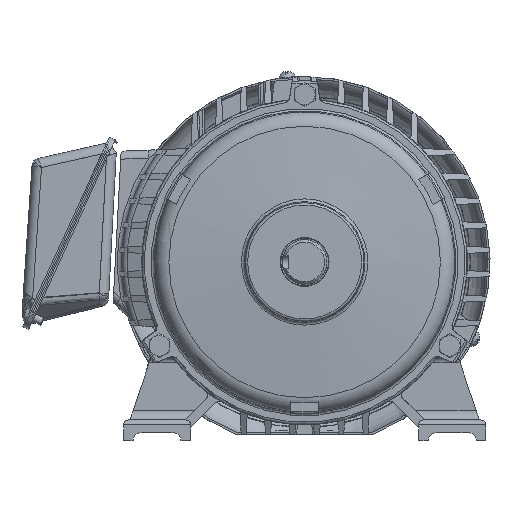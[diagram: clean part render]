
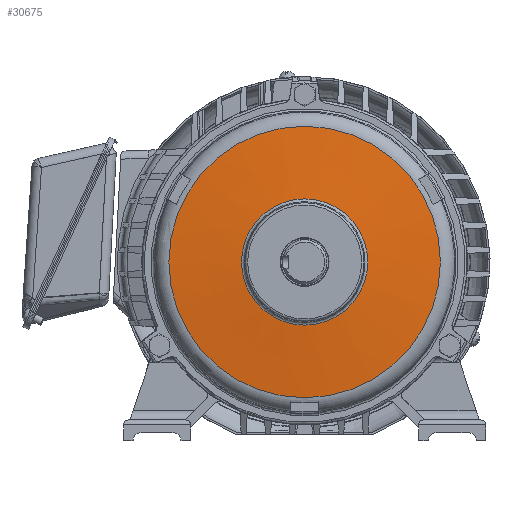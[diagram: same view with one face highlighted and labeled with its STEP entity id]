
A CAD part, front view. The second image highlights one B-rep face of the part: STEP entity #30675.
In plain terms, the highlighted conical face has half-angle 84.882 degrees and reference radius 92.5 mm.
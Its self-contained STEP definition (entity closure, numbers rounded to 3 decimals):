
#477=CONICAL_SURFACE('',#32849,92.5,1.481);
#2706=CIRCLE('',#32850,85.099);
#2707=CIRCLE('',#32851,39.578);
#6448=ORIENTED_EDGE('',*,*,#12996,.T.);
#6449=ORIENTED_EDGE('',*,*,#12997,.T.);
#12996=EDGE_CURVE('',#16497,#16497,#2706,.T.);
#12997=EDGE_CURVE('',#16498,#16498,#2707,.T.);
#16497=VERTEX_POINT('',#51056);
#16498=VERTEX_POINT('',#51058);
#21683=EDGE_LOOP('',(#6448));
#21684=EDGE_LOOP('',(#6449));
#23600=FACE_BOUND('',#21683,.T.);
#23601=FACE_BOUND('',#21684,.T.);
#30675=ADVANCED_FACE('',(#23600,#23601),#477,.T.);
#32849=AXIS2_PLACEMENT_3D('',#51054,#37461,#37462);
#32850=AXIS2_PLACEMENT_3D('',#51055,#37463,#37464);
#32851=AXIS2_PLACEMENT_3D('',#51057,#37465,#37466);
#37461=DIRECTION('',(0.,1.,0.));
#37462=DIRECTION('',(-1.,0.,0.));
#37463=DIRECTION('',(0.,-1.,0.));
#37464=DIRECTION('',(1.,0.,0.));
#37465=DIRECTION('',(0.,1.,0.));
#37466=DIRECTION('',(-1.,0.,0.));
#51054=CARTESIAN_POINT('',(0.,11.881,0.));
#51055=CARTESIAN_POINT('',(0.,11.218,0.));
#51056=CARTESIAN_POINT('',(85.099,11.218,0.));
#51057=CARTESIAN_POINT('',(0.,7.141,0.));
#51058=CARTESIAN_POINT('',(-39.578,7.141,0.));
